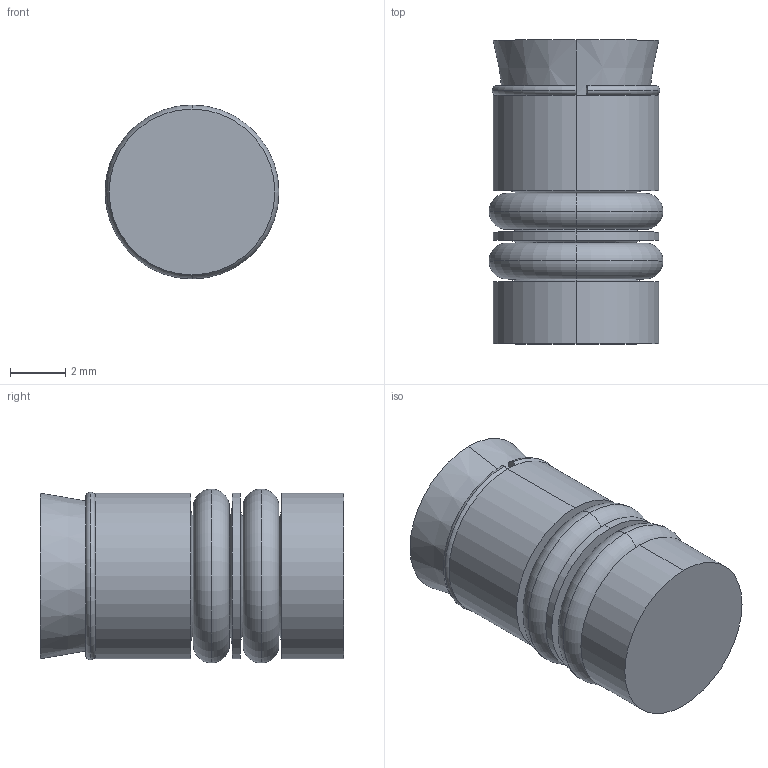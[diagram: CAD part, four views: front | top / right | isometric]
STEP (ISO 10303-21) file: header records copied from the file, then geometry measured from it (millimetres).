
FILE_DESCRIPTION (( 'STEP AP203' ), '1' );
FILE_NAME ('TCR2_6.STEP', '2023-04-24T12:04:09', ( '' ), ( '' ), 'SwSTEP 2.0', 'SolidWorks 2022', '' );
FILE_SCHEMA (( 'CONFIG_CONTROL_DESIGN' ));
Length unit declared in the file: millimetre
Products named in the file (1): TCR2_6
Bounding box: 6.3 x 11 x 6.3 mm (x, y, z)
Volume: 298 mm3; surface area: 454.1 mm2
Topology: 4 solids, 4 shells, 35 faces, 66 edges, 40 vertices
Faces by surface type: torus 18, plane 9, cylinder 6, cone 2
Entity records: 981 total; most frequent: DIRECTION 196, CARTESIAN_POINT 142, ORIENTED_EDGE 132, AXIS2_PLACEMENT_3D 94, EDGE_CURVE 66, CIRCLE 58, VERTEX_POINT 40, EDGE_LOOP 40
